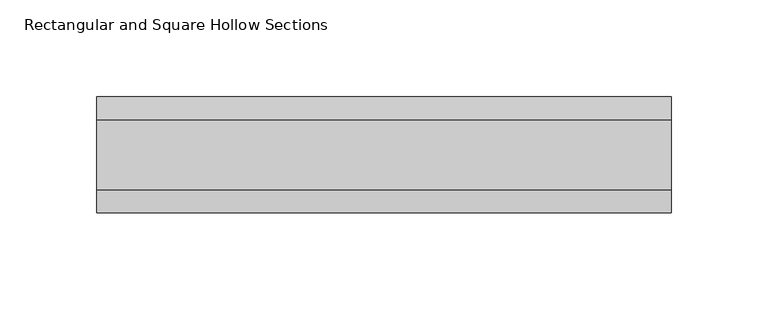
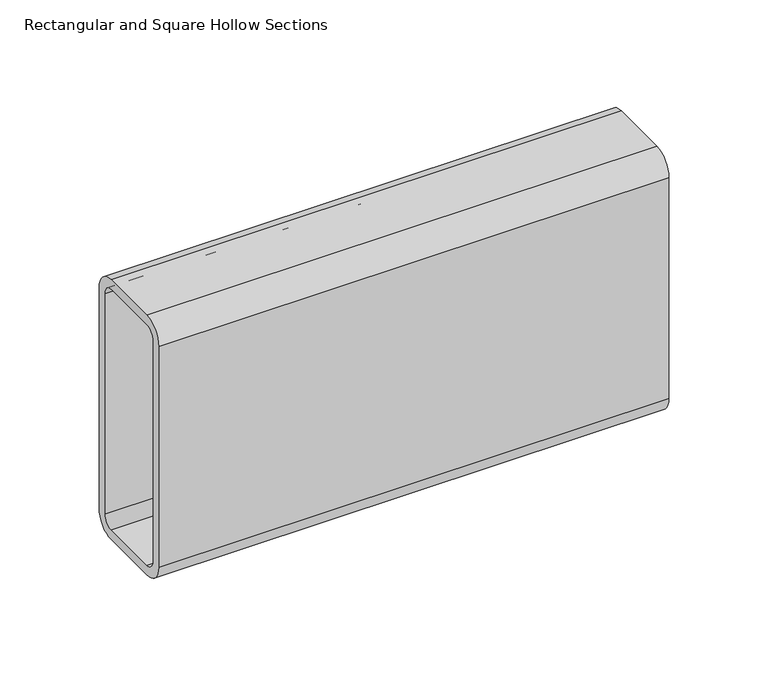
"""IFC4 building model written with IfcOpenShell, lengths in millimetres: beam geometry, Rectangular and Square Hollow Sections : TREC160x60x6."""

from ifc_helpers import new_model, si_unit, point, frame, frame_2d, origin, place, context, project, spatial, polyline, circle_curve, trimmed, segment, composite_curve, outline, extrude, source, transform, mapped, element, save


def rectangular_and_square_hollow_sections_8c7ce1b5(model_context):
    return source(origin(), model_context, "Body", "SweptSolid", [
        extrude(outline(composite_curve([segment(polyline([(30.0, 68.0), (30.0, -68.0)]), True, "CONTINUOUS"), segment(trimmed(circle_curve(frame_2d((18.0, -68.0)), 12.0), [point((30.0, -68.0))], [point((18.0, -80.0))], False, "CARTESIAN"), True, "CONTINUOUS"), segment(polyline([(18.0, -80.0), (-18.0, -80.0)]), True, "CONTINUOUS"), segment(trimmed(circle_curve(frame_2d((-18.0, -68.0)), 12.0), [point((-18.0, -80.0))], [point((-30.0, -68.0))], False, "CARTESIAN"), True, "CONTINUOUS"), segment(polyline([(-30.0, -68.0), (-30.0, 68.0)]), True, "CONTINUOUS"), segment(trimmed(circle_curve(frame_2d((-18.0, 68.0)), 12.0), [point((-30.0, 68.0))], [point((-18.0, 80.0))], False, "CARTESIAN"), True, "CONTINUOUS"), segment(polyline([(-18.0, 80.0), (18.0, 80.0)]), True, "CONTINUOUS"), segment(trimmed(circle_curve(frame_2d((18.0, 68.0)), 12.0), [point((18.0, 80.0))], [point((30.0, 68.0))], False, "CARTESIAN"), True, "CONTINUOUS")], self_intersect=False), holes=[composite_curve([segment(trimmed(circle_curve(frame_2d((-18.0, 68.0)), 6.0), [point((-18.0, 74.0))], [point((-24.0, 68.0))], True, "CARTESIAN"), True, "CONTINUOUS"), segment(polyline([(-24.0, 68.0), (-24.0, -68.0)]), True, "CONTINUOUS"), segment(trimmed(circle_curve(frame_2d((-18.0, -68.0)), 6.0), [point((-24.0, -68.0))], [point((-18.0, -74.0))], True, "CARTESIAN"), True, "CONTINUOUS"), segment(polyline([(-18.0, -74.0), (18.0, -74.0)]), True, "CONTINUOUS"), segment(trimmed(circle_curve(frame_2d((18.0, -68.0)), 6.0), [point((18.0, -74.0))], [point((24.0, -68.0))], True, "CARTESIAN"), True, "CONTINUOUS"), segment(polyline([(24.0, -68.0), (24.0, 68.0)]), True, "CONTINUOUS"), segment(trimmed(circle_curve(frame_2d((18.0, 68.0)), 6.0), [point((24.0, 68.0))], [point((18.0, 74.0))], True, "CARTESIAN"), True, "CONTINUOUS"), segment(polyline([(18.0, 74.0), (-18.0, 74.0)]), True, "CONTINUOUS")], self_intersect=False)]), frame((-148.5, 0.0, 0.0), z_axis=(1.0, 0.0, 0.0), x_axis=(0.0, 1.0, 0.0)), (0.0, 0.0, 1.0), 297.0),
    ])


if __name__ == "__main__":
    model = new_model("IFC4")
    model_context = context("Model", 3, world=origin())
    ifc_project = project(units=[si_unit("LENGTHUNIT", "METRE", prefix="MILLI")], contexts=[model_context])
    site = spatial("IfcSite", under=ifc_project)
    building = spatial("IfcBuilding", under=site)
    placement = place(None, origin())
    rectangular_and_square_hollow_sections_shape = rectangular_and_square_hollow_sections_8c7ce1b5(model_context)
    element("IfcBeam", 1, ObjectType="Rectangular and Square Hollow Sections : TREC160x60x6", at=placement, inside=building, context=model_context, shape_type="MappedRepresentation", body=[
        mapped(rectangular_and_square_hollow_sections_shape, transform((0.0, 0.0, 0.0), x_axis=(1.0, 0.0, 0.0), y_axis=(0.0, 1.0, 0.0), z_axis=(0.0, 0.0, 1.0))),
    ])
    save(model, "model.ifc")
